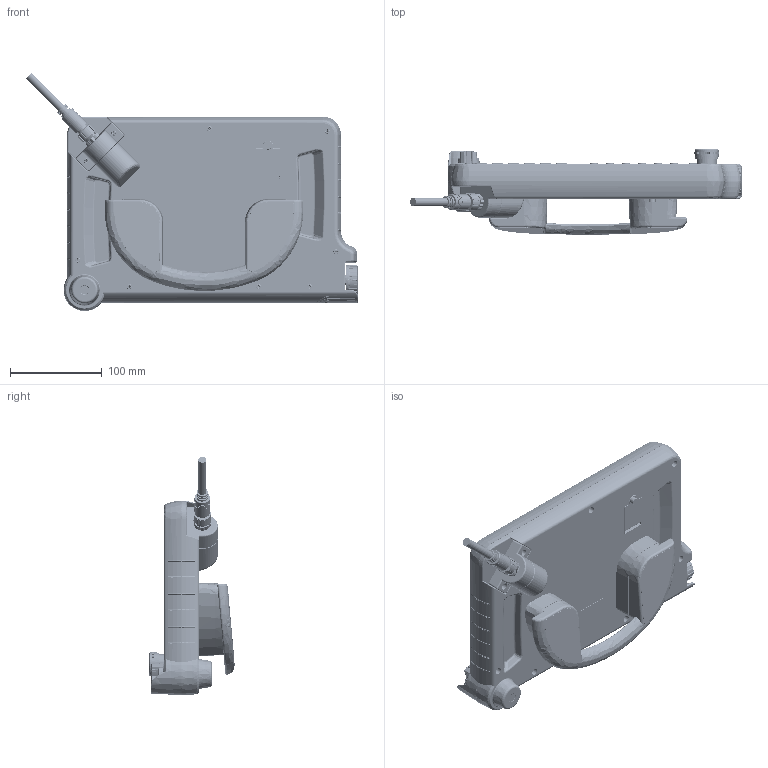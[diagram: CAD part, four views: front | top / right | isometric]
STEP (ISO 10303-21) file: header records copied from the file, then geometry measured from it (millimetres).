
FILE_DESCRIPTION((''),'2;1');
FILE_NAME('TEACH-102-ASM_ASM','2026-02-28T',('24166'),(''),'PRO/ENGINEER BY PARAMETRIC TECHNOLOGY CORPORATION, 2015240','PRO/ENGINEER BY PARAMETRIC TECHNOLOGY CORPORATION, 2015240','');
FILE_SCHEMA(('AUTOMOTIVE_DESIGN { 1 2 10303 214 0 1 1 1 }'));
Length unit declared in the file: millimetre
Products named in the file (58): LCD-101-SATOZ; BACK-COVER-TEACH-102; NUT-M3X6X5-20240419; BACK-COVER-TEACH-102-ASM_ASM; HOLD-TEACH-102; SECC-BRACKET-TEACH-102; PCB-MAIN-TEACH-102; USB-A-20-ZC; PCBA-TYPEC-2023Q2; TYPEC-2023Q2; PCBA-TYPEC-ASM-2023Q2_ASM; 0603-LED; PCBA-MAIN-TEACH-102-ASM_ASM; PCB-MPG-TEACH-102; MPG-STAND-PUYAO-102; ELEC-KNOB-TEACH-102; PVC-PANEL-7X11X1; PCBA-MPG-TEACH-102-ASM_ASM; EG-STOP-BUTTON-SWITCH; 8PIN-GT-TEACH-102; 8PIN-GT-DZ-TEACH-102; MANIFOLD-A-TEACH-102; MANIFOLD-B-TEACH-102; MANIFOLD_SOLID_2708-20251110; MANIFOLD_SOLID_5617-20251110; 2311049-20251110-ASM_ASM; 8PIN-MT-TEACH-102-ASM_ASM; RUBBER-M16-TEACH-102; M16-NUT; 8PIN-GMT-TEACH-102-ASM_ASM; COVER-CABLE-TEACH-102; COVER-USB-070QF-20240419; SCREW-M3X8G-20240419; RUBBER-USB-TEACH-102; RUBBER-EG-STOP-TEACH-102; LOGO-PANEL-TEACH-102; SCREW-3X10PA; SCREW-3X8PA; 8PIN-GT-TEACH-102-V1; 8PIN-GT-DZ-TEACH-102-V1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
Assembly tree (96 placements, depth 5):
  TEACH-102-ASM_ASM
    LCD-101-SATOZ
    BACK-COVER-TEACH-102-ASM_ASM
      BACK-COVER-TEACH-102
      NUT-M3X6X5-20240419
    HOLD-TEACH-102
    SECC-BRACKET-TEACH-102  x2
    PCBA-MAIN-TEACH-102-ASM_ASM
      PCB-MAIN-TEACH-102
      USB-A-20-ZC
      PCBA-TYPEC-ASM-2023Q2_ASM
        PCBA-TYPEC-2023Q2
        TYPEC-2023Q2
      0603-LED  x14
    PCBA-MPG-TEACH-102-ASM_ASM
      PCB-MPG-TEACH-102
      MPG-STAND-PUYAO-102
      ELEC-KNOB-TEACH-102
      PVC-PANEL-7X11X1
    EG-STOP-BUTTON-SWITCH
    8PIN-GMT-TEACH-102-ASM_ASM
      8PIN-GT-TEACH-102
      8PIN-GT-DZ-TEACH-102
      8PIN-MT-TEACH-102-ASM_ASM
        MANIFOLD-A-TEACH-102
        MANIFOLD-B-TEACH-102
        2311049-20251110-ASM_ASM
          MANIFOLD_SOLID_2708-20251110
          MANIFOLD_SOLID_5617-20251110
      RUBBER-M16-TEACH-102
      M16-NUT
    COVER-CABLE-TEACH-102
    COVER-USB-070QF-20240419
    SCREW-M3X8G-20240419
    RUBBER-USB-TEACH-102
    RUBBER-EG-STOP-TEACH-102
    LOGO-PANEL-TEACH-102
    SCREW-3X10PA  x10
    SCREW-3X8PA  x14
    8PIN-GMT-TEACH-102-V1-ASM_ASM
      8PIN-GT-TEACH-102-V1
      8PIN-GT-DZ-TEACH-102-V1
      8PIN-MT-TEACH-102-ASM-V1_ASM
        MANIFOLD-A-TEACH-102-V1
        MANIFOLD-B-TEACH-102-V1
      RUBBER-M16-TEACH-102-V1
      M16-NUT-V1
    SECC-15-BRACKET-TEA-102-ACTIVE
    PCBA-SDKG-TEACH-070-M2-ASM-0912_ASM
      PCBA-SDKG-TEACH-070-M2-0912  x2
      MPG-STAND-PUYAO-070-M2-0809
      PVC-PANEL-0809
      ELEC-KNOB-TEACH-070-M2-0809  x3
      DP-SDKG-01-0809
      LUOMU-SDKG-01-0809
    TOP-COVER-TEACH-102-V11
    KEY-PANEL-TEACH-102-V11
    RUBBER-EG-STOP-TEACH-102-V11
Bounding box: 361.82 x 93 x 259.48 mm (x, y, z)
Volume: 809374.6 mm3; surface area: 713799 mm2
Topology: 86 solids, 86 shells, 9627 faces, 24941 edges, 15853 vertices
Faces by surface type: plane 3893, cylinder 2960, bspline 1266, torus 695, cone 524, sphere 276, extrusion 13
Entity records: 329203 total; most frequent: CARTESIAN_POINT 93189, ORIENTED_EDGE 39944, DIRECTION 38092, EDGE_CURVE 19972, AXIS2_PLACEMENT_3D 13878, PRESENTATION_STYLE_ASSIGNMENT 13500, STYLED_ITEM 13419, VERTEX_POINT 12753
